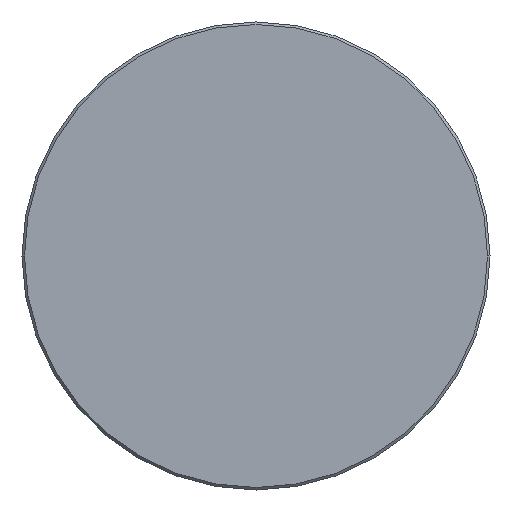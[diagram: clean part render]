
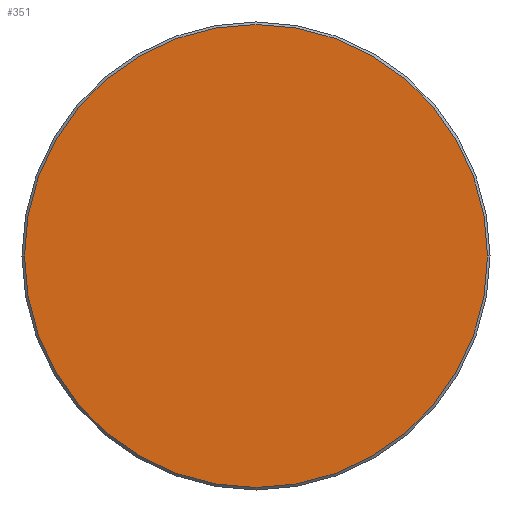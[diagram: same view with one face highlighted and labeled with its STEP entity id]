
A CAD part, left-side view. The second image highlights one B-rep face of the part: STEP entity #351.
In plain terms, the highlighted planar face has unit normal (-1, 0, 0).
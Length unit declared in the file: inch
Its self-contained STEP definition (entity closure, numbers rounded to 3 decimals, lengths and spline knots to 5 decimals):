
#60 = CIRCLE ( 'NONE', #328, 0.371 ) ;
#148 = EDGE_CURVE ( 'NONE', #362, #290, #196, .T. ) ;
#150 = CARTESIAN_POINT ( 'NONE',  ( 0., 0., 0. ) ) ;
#176 = DIRECTION ( 'NONE',  ( -1., 0., 0. ) ) ;
#196 = CIRCLE ( 'NONE', #333, 0.371 ) ;
#214 = EDGE_CURVE ( 'NONE', #290, #362, #60, .T. ) ;
#215 = ORIENTED_EDGE ( 'NONE', *, *, #148, .T. ) ;
#225 = DIRECTION ( 'NONE',  ( -1., 0., 0. ) ) ;
#231 = CARTESIAN_POINT ( 'NONE',  ( 0., 0., 0. ) ) ;
#232 = DIRECTION ( 'NONE',  ( 0., -1., 0. ) ) ;
#237 = CARTESIAN_POINT ( 'NONE',  ( 0., 0.371, 0. ) ) ;
#255 = DIRECTION ( 'NONE',  ( 0., -1., 0. ) ) ;
#258 = EDGE_LOOP ( 'NONE', ( #346, #215 ) ) ;
#272 = CARTESIAN_POINT ( 'NONE',  ( 0., -0.371, 0. ) ) ;
#290 = VERTEX_POINT ( 'NONE', #237 ) ;
#301 = DIRECTION ( 'NONE',  ( 0., -1., 0. ) ) ;
#317 = CARTESIAN_POINT ( 'NONE',  ( 0., 0., 0. ) ) ;
#328 = AXIS2_PLACEMENT_3D ( 'NONE', #231, #378, #232 ) ;
#333 = AXIS2_PLACEMENT_3D ( 'NONE', #317, #225, #255 ) ;
#334 = AXIS2_PLACEMENT_3D ( 'NONE', #150, #176, #301 ) ;
#346 = ORIENTED_EDGE ( 'NONE', *, *, #214, .T. ) ;
#351 = ADVANCED_FACE ( 'NONE', ( #366 ), #360, .T. ) ;
#360 = PLANE ( 'NONE',  #334 ) ;
#362 = VERTEX_POINT ( 'NONE', #272 ) ;
#366 = FACE_OUTER_BOUND ( 'NONE', #258, .T. ) ;
#378 = DIRECTION ( 'NONE',  ( -1., 0., 0. ) ) ;
